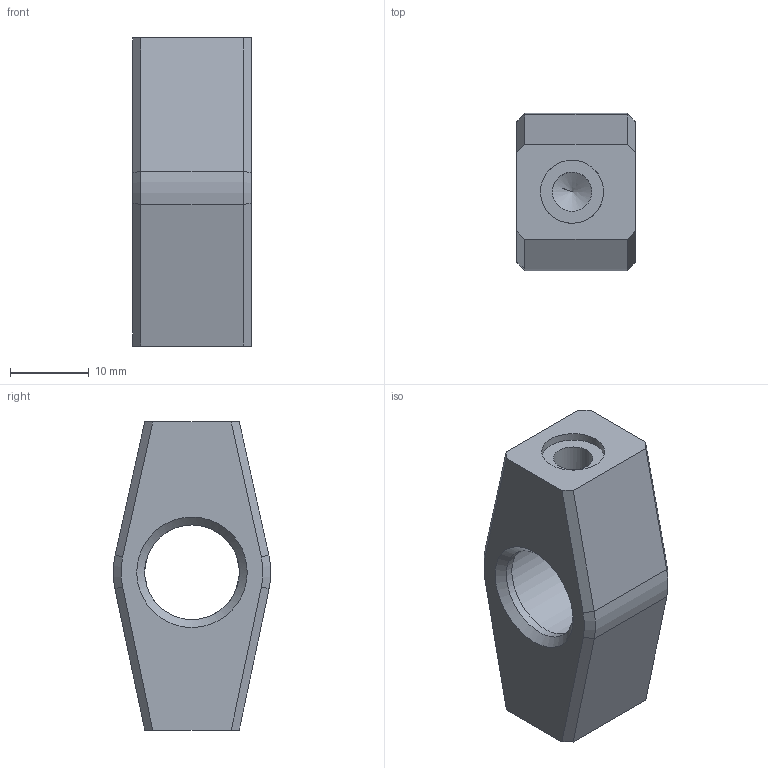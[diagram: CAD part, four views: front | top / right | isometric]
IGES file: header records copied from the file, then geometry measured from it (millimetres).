
Global section: file name: LHF15S-N; native system: Autodesk Inventor 2014; preprocessor: unknown; author: e.nonaka; date: 20140807.164658; units: millimetre
Bounding box: 15 x 19.96 x 39.05 mm (x, y, z)
Volume: 6690.6 mm3; surface area: 3533 mm2
Topology: 1 solids, 1 shells, 48 faces, 119 edges, 77 vertices
Faces by surface type: bspline 48
